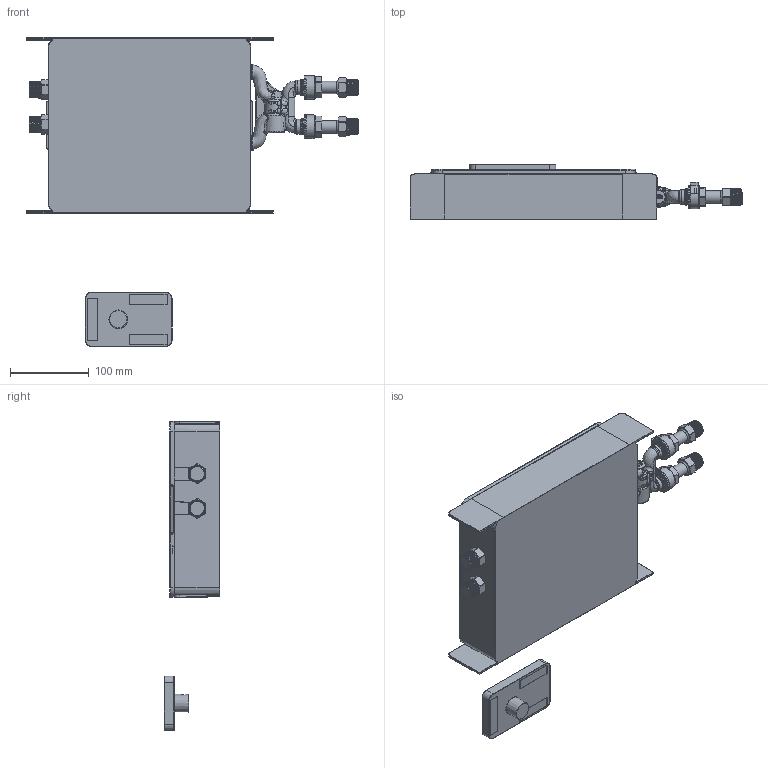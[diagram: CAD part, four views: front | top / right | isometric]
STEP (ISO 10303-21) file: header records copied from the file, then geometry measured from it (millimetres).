
FILE_DESCRIPTION(/* description */ (''),/* implementation_level */ '2;1');
FILE_NAME(/* name */ 'X:\Utilisateurs\Simon\9580 3D.stp',/* time_stamp */ '2017-01-26T10:29:49-05:00',/* author */ ('simonb'),/* organization */ (''),/* preprocessor_version */ 'ST-DEVELOPER v15.6',/* originating_system */ 'Autodesk Inventor 2015',/* authorisation */ '');
FILE_SCHEMA (('AUTOMOTIVE_DESIGN { 1 0 10303 214 3 1 1 }'));
Products named in the file (1): 9580_Shrinkwrap_1
Bounding box: 421.05 x 70.2 x 392 mm (x, y, z)
Volume: 105489.2 mm3; surface area: 514522.1 mm2
Topology: 3 solids, 5 shells, 2891 faces, 7722 edges, 4711 vertices
Faces by surface type: plane 1007, cylinder 910, bspline 518, cone 179, sphere 158, torus 119
Full cylindrical faces by diameter (mm): 5 x1, 8.95 x1, 10 x7, 12.6 x1, 15.3 x2, 15.5 x1, 15.7 x2, 15.8 x4, 17.835 x4, 18.2 x2, 18.4 x4, 18.6 x2, 18.63 x2, 19 x2
Entity records: 170671 total; most frequent: CARTESIAN_POINT 100907, ORIENTED_EDGE 14814, DIRECTION 12844, EDGE_CURVE 7398, AXIS2_PLACEMENT_3D 4684, VERTEX_POINT 4605, LINE 3476, VECTOR 3476
